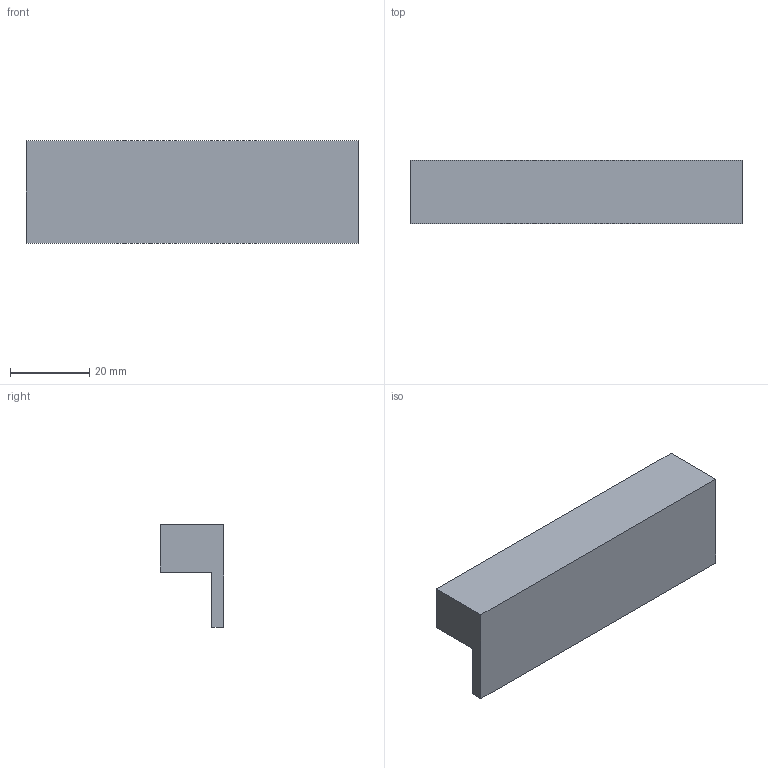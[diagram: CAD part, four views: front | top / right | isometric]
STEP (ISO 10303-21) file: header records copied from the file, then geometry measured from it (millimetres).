
FILE_DESCRIPTION( ( 'STEP AP214' ), '1' );
FILE_NAME( 'D:/Shahbaz D&D/Task/Check and correct handles with 3 drill sockets/Trani/9995438.stp', '2023-02-20T11:23:46', ( '' ), ( '' ), ' ', 'PARTsolutions', ' ' );
FILE_SCHEMA( ( 'AUTOMOTIVE_DESIGN { 1 0 10303 214 1 1 1 1 }' ) );
Length unit declared in the file: millimetre
Products named in the file (1): _9995438
Bounding box: 84 x 16 x 26 mm (x, y, z)
Volume: 19341.8 mm3; surface area: 7775.3 mm2
Topology: 1 solids, 1 shells, 12 faces, 24 edges, 16 vertices
Faces by surface type: plane 10, cylinder 2
Full cylindrical faces by diameter (mm): 5 x2
Entity records: 414 total; most frequent: DIRECTION 52, CARTESIAN_POINT 51, ORIENTED_EDGE 44, EDGE_CURVE 22, LINE 18, VECTOR 18, AXIS2_PLACEMENT_3D 17, EDGE_LOOP 16
